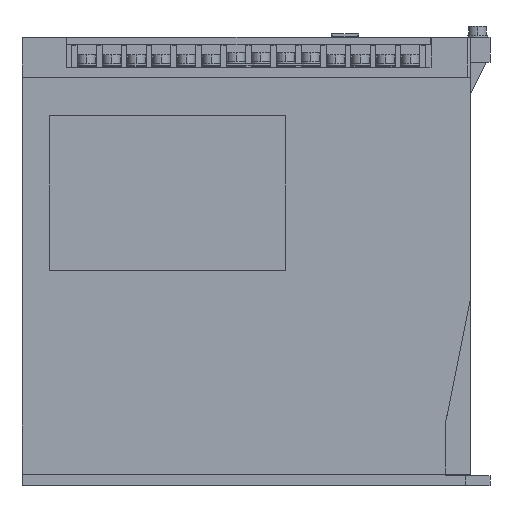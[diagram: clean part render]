
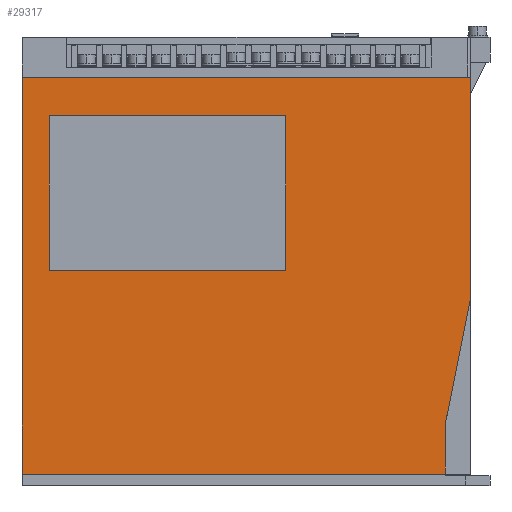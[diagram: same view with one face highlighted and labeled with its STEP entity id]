
A CAD part, left-side view. The second image highlights one B-rep face of the part: STEP entity #29317.
In plain terms, the highlighted planar face has unit normal (-1, 0, 0).
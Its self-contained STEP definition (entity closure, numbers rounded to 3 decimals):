
#1479=DIRECTION('',(0.,0.,-1.));
#1480=VECTOR('',#1479,19.9);
#1481=CARTESIAN_POINT('',(0.,10.,24.5));
#1482=LINE('',#1481,#1480);
#1483=DIRECTION('',(0.,1.,0.));
#1484=VECTOR('',#1483,170.);
#1485=CARTESIAN_POINT('',(0.,10.,4.6));
#1486=LINE('',#1485,#1484);
#1487=DIRECTION('',(0.,-1.,0.));
#1488=VECTOR('',#1487,180.);
#1489=CARTESIAN_POINT('',(0.,180.,163.9));
#1490=LINE('',#1489,#1488);
#1491=DIRECTION('',(0.,0.,-1.));
#1492=VECTOR('',#1491,89.4);
#1493=CARTESIAN_POINT('',(0.,0.,163.9));
#1494=LINE('',#1493,#1492);
#1495=DIRECTION('',(0.,0.196,-0.981));
#1496=VECTOR('',#1495,50.99);
#1497=CARTESIAN_POINT('',(0.,0.,74.5));
#1498=LINE('',#1497,#1496);
#1499=DIRECTION('',(0.,1.,0.));
#1500=VECTOR('',#1499,95.);
#1501=CARTESIAN_POINT('',(0.,74.,148.5));
#1502=LINE('',#1501,#1500);
#1503=DIRECTION('',(0.,0.,-1.));
#1504=VECTOR('',#1503,62.);
#1505=CARTESIAN_POINT('',(0.,169.,148.5));
#1506=LINE('',#1505,#1504);
#1507=DIRECTION('',(0.,-1.,0.));
#1508=VECTOR('',#1507,95.);
#1509=CARTESIAN_POINT('',(0.,169.,86.5));
#1510=LINE('',#1509,#1508);
#1511=DIRECTION('',(0.,0.,1.));
#1512=VECTOR('',#1511,62.);
#1513=CARTESIAN_POINT('',(0.,74.,86.5));
#1514=LINE('',#1513,#1512);
#1520=DIRECTION('',(0.,0.,-1.));
#1521=VECTOR('',#1520,159.3);
#1522=CARTESIAN_POINT('',(0.,180.,163.9));
#1523=LINE('',#1522,#1521);
#20623=CARTESIAN_POINT('',(0.,180.,4.6));
#20624=VERTEX_POINT('',#20623);
#20625=CARTESIAN_POINT('',(0.,10.,4.6));
#20626=VERTEX_POINT('',#20625);
#20663=CARTESIAN_POINT('',(0.,0.,163.9));
#20664=VERTEX_POINT('',#20663);
#20665=CARTESIAN_POINT('',(0.,180.,163.9));
#20666=VERTEX_POINT('',#20665);
#21073=CARTESIAN_POINT('',(0.,0.,74.5));
#21074=VERTEX_POINT('',#21073);
#21183=CARTESIAN_POINT('',(0.,10.,24.5));
#21184=VERTEX_POINT('',#21183);
#21201=CARTESIAN_POINT('',(0.,74.,148.5));
#21202=CARTESIAN_POINT('',(0.,169.,148.5));
#21203=VERTEX_POINT('',#21201);
#21204=VERTEX_POINT('',#21202);
#21205=CARTESIAN_POINT('',(0.,169.,86.5));
#21206=VERTEX_POINT('',#21205);
#21207=CARTESIAN_POINT('',(0.,74.,86.5));
#21208=VERTEX_POINT('',#21207);
#29292=CARTESIAN_POINT('',(0.,180.,164.));
#29293=DIRECTION('',(-1.,0.,0.));
#29294=DIRECTION('',(0.,0.,-1.));
#29295=AXIS2_PLACEMENT_3D('',#29292,#29293,#29294);
#29296=PLANE('',#29295);
#29297=ORIENTED_EDGE('',*,*,#29260,.T.);
#29298=ORIENTED_EDGE('',*,*,#27302,.T.);
#29300=ORIENTED_EDGE('',*,*,#29299,.F.);
#29301=ORIENTED_EDGE('',*,*,#27569,.T.);
#29302=ORIENTED_EDGE('',*,*,#29091,.T.);
#29304=ORIENTED_EDGE('',*,*,#29303,.T.);
#29305=EDGE_LOOP('',(#29297,#29298,#29300,#29301,#29302,#29304));
#29306=FACE_OUTER_BOUND('',#29305,.F.);
#29308=ORIENTED_EDGE('',*,*,#29307,.T.);
#29310=ORIENTED_EDGE('',*,*,#29309,.T.);
#29312=ORIENTED_EDGE('',*,*,#29311,.T.);
#29314=ORIENTED_EDGE('',*,*,#29313,.T.);
#29315=EDGE_LOOP('',(#29308,#29310,#29312,#29314));
#29316=FACE_BOUND('',#29315,.F.);
#27302=EDGE_CURVE('',#20626,#20624,#1486,.T.);
#27569=EDGE_CURVE('',#20666,#20664,#1490,.T.);
#29091=EDGE_CURVE('',#20664,#21074,#1494,.T.);
#29260=EDGE_CURVE('',#21184,#20626,#1482,.T.);
#29299=EDGE_CURVE('',#20666,#20624,#1523,.T.);
#29303=EDGE_CURVE('',#21074,#21184,#1498,.T.);
#29307=EDGE_CURVE('',#21203,#21204,#1502,.T.);
#29309=EDGE_CURVE('',#21204,#21206,#1506,.T.);
#29311=EDGE_CURVE('',#21206,#21208,#1510,.T.);
#29313=EDGE_CURVE('',#21208,#21203,#1514,.T.);
#29317=ADVANCED_FACE('',(#29306,#29316),#29296,.T.);
